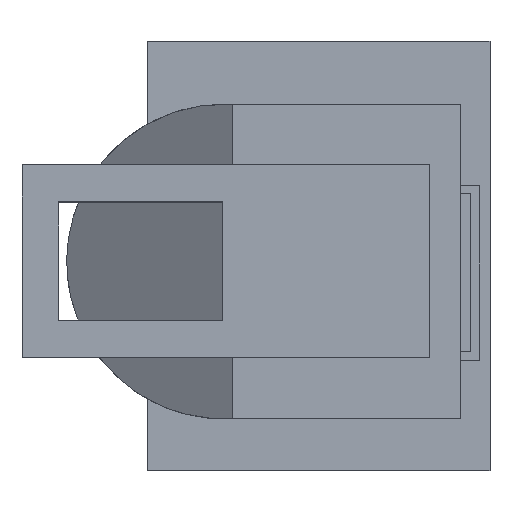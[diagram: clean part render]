
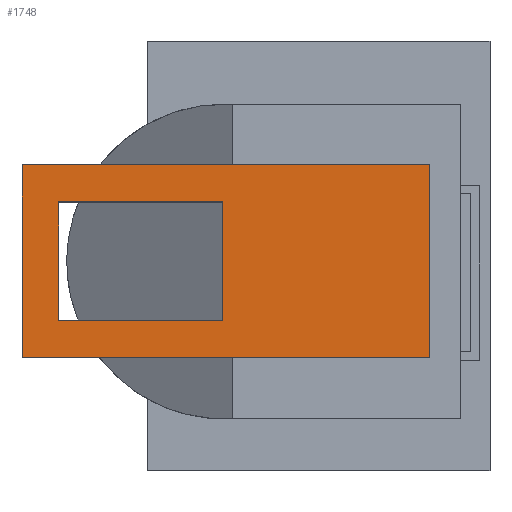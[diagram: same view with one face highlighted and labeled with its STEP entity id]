
A CAD part, top view. The second image highlights one B-rep face of the part: STEP entity #1748.
In plain terms, the highlighted planar face has unit normal (0, 0, 1).
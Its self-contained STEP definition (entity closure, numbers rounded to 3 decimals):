
#104 = VECTOR ( 'NONE', #162, 1000. ) ;
#118 = ORIENTED_EDGE ( 'NONE', *, *, #2086, .F. ) ;
#158 = CARTESIAN_POINT ( 'NONE',  ( 24.15, -22.98, 517.4 ) ) ;
#162 = DIRECTION ( 'NONE',  ( -1., 0., 0. ) ) ;
#231 = CARTESIAN_POINT ( 'NONE',  ( 24.15, 19.22, 517.4 ) ) ;
#234 = ORIENTED_EDGE ( 'NONE', *, *, #2300, .F. ) ;
#286 = VERTEX_POINT ( 'NONE', #1725 ) ;
#344 = CARTESIAN_POINT ( 'NONE',  ( -65.05, 19.22, 517.4 ) ) ;
#353 = EDGE_CURVE ( 'NONE', #1970, #2287, #1699, .T. ) ;
#364 = CARTESIAN_POINT ( 'NONE',  ( 24.15, 19.22, 517.4 ) ) ;
#390 = FACE_BOUND ( 'NONE', #471, .T. ) ;
#409 = CARTESIAN_POINT ( 'NONE',  ( -57.05, -14.88, 517.4 ) ) ;
#421 = VECTOR ( 'NONE', #663, 1000. ) ;
#471 = EDGE_LOOP ( 'NONE', ( #118, #234, #956, #2359 ) ) ;
#496 = LINE ( 'NONE', #344, #1916 ) ;
#542 = ORIENTED_EDGE ( 'NONE', *, *, #1134, .T. ) ;
#602 = CARTESIAN_POINT ( 'NONE',  ( -21.05, 11.12, 517.4 ) ) ;
#663 = DIRECTION ( 'NONE',  ( 1., 0., 0. ) ) ;
#706 = VERTEX_POINT ( 'NONE', #1837 ) ;
#785 = LINE ( 'NONE', #1246, #421 ) ;
#868 = VECTOR ( 'NONE', #2351, 1000. ) ;
#956 = ORIENTED_EDGE ( 'NONE', *, *, #1745, .F. ) ;
#957 = LINE ( 'NONE', #2088, #1509 ) ;
#979 = EDGE_CURVE ( 'NONE', #706, #1444, #1840, .T. ) ;
#982 = VECTOR ( 'NONE', #1247, 1000. ) ;
#1109 = PLANE ( 'NONE',  #1123 ) ;
#1115 = DIRECTION ( 'NONE',  ( 0., 0., -1. ) ) ;
#1123 = AXIS2_PLACEMENT_3D ( 'NONE', #1326, #1115, #2251 ) ;
#1134 = EDGE_CURVE ( 'NONE', #2423, #1970, #785, .T. ) ;
#1161 = ORIENTED_EDGE ( 'NONE', *, *, #2020, .T. ) ;
#1191 = VECTOR ( 'NONE', #2491, 1000. ) ;
#1200 = VECTOR ( 'NONE', #2334, 1000. ) ;
#1246 = CARTESIAN_POINT ( 'NONE',  ( 24.15, -22.98, 517.4 ) ) ;
#1247 = DIRECTION ( 'NONE',  ( 0., -1., 0. ) ) ;
#1298 = CARTESIAN_POINT ( 'NONE',  ( -65.05, 19.22, 517.4 ) ) ;
#1315 = DIRECTION ( 'NONE',  ( 0., -1., 0. ) ) ;
#1326 = CARTESIAN_POINT ( 'NONE',  ( 0., 0., 517.4 ) ) ;
#1360 = EDGE_LOOP ( 'NONE', ( #1161, #2003, #542, #2369 ) ) ;
#1403 = CARTESIAN_POINT ( 'NONE',  ( -57.05, 11.12, 517.4 ) ) ;
#1444 = VERTEX_POINT ( 'NONE', #1403 ) ;
#1509 = VECTOR ( 'NONE', #1315, 1000. ) ;
#1613 = VERTEX_POINT ( 'NONE', #1617 ) ;
#1617 = CARTESIAN_POINT ( 'NONE',  ( -21.05, -14.88, 517.4 ) ) ;
#1620 = LINE ( 'NONE', #1794, #982 ) ;
#1699 = LINE ( 'NONE', #364, #1191 ) ;
#1706 = LINE ( 'NONE', #409, #1200 ) ;
#1721 = CARTESIAN_POINT ( 'NONE',  ( -57.05, 11.12, 517.4 ) ) ;
#1725 = CARTESIAN_POINT ( 'NONE',  ( -57.05, -14.88, 517.4 ) ) ;
#1745 = EDGE_CURVE ( 'NONE', #1444, #286, #957, .T. ) ;
#1748 = ADVANCED_FACE ( 'NONE', ( #390, #1951 ), #1109, .F. ) ;
#1794 = CARTESIAN_POINT ( 'NONE',  ( -65.05, -22.98, 517.4 ) ) ;
#1837 = CARTESIAN_POINT ( 'NONE',  ( -21.05, 11.12, 517.4 ) ) ;
#1840 = LINE ( 'NONE', #1721, #104 ) ;
#1867 = VERTEX_POINT ( 'NONE', #1298 ) ;
#1916 = VECTOR ( 'NONE', #2314, 1000. ) ;
#1951 = FACE_OUTER_BOUND ( 'NONE', #1360, .T. ) ;
#1970 = VERTEX_POINT ( 'NONE', #158 ) ;
#2003 = ORIENTED_EDGE ( 'NONE', *, *, #2431, .T. ) ;
#2020 = EDGE_CURVE ( 'NONE', #2287, #1867, #496, .T. ) ;
#2076 = LINE ( 'NONE', #602, #868 ) ;
#2086 = EDGE_CURVE ( 'NONE', #1613, #706, #2076, .T. ) ;
#2088 = CARTESIAN_POINT ( 'NONE',  ( -57.05, 11.12, 517.4 ) ) ;
#2193 = CARTESIAN_POINT ( 'NONE',  ( -65.05, -22.98, 517.4 ) ) ;
#2251 = DIRECTION ( 'NONE',  ( -1., 0., 0. ) ) ;
#2287 = VERTEX_POINT ( 'NONE', #231 ) ;
#2300 = EDGE_CURVE ( 'NONE', #286, #1613, #1706, .T. ) ;
#2314 = DIRECTION ( 'NONE',  ( -1., 0., 0. ) ) ;
#2334 = DIRECTION ( 'NONE',  ( 1., 0., 0. ) ) ;
#2351 = DIRECTION ( 'NONE',  ( 0., 1., 0. ) ) ;
#2359 = ORIENTED_EDGE ( 'NONE', *, *, #979, .F. ) ;
#2369 = ORIENTED_EDGE ( 'NONE', *, *, #353, .T. ) ;
#2423 = VERTEX_POINT ( 'NONE', #2193 ) ;
#2431 = EDGE_CURVE ( 'NONE', #1867, #2423, #1620, .T. ) ;
#2491 = DIRECTION ( 'NONE',  ( 0., 1., 0. ) ) ;
